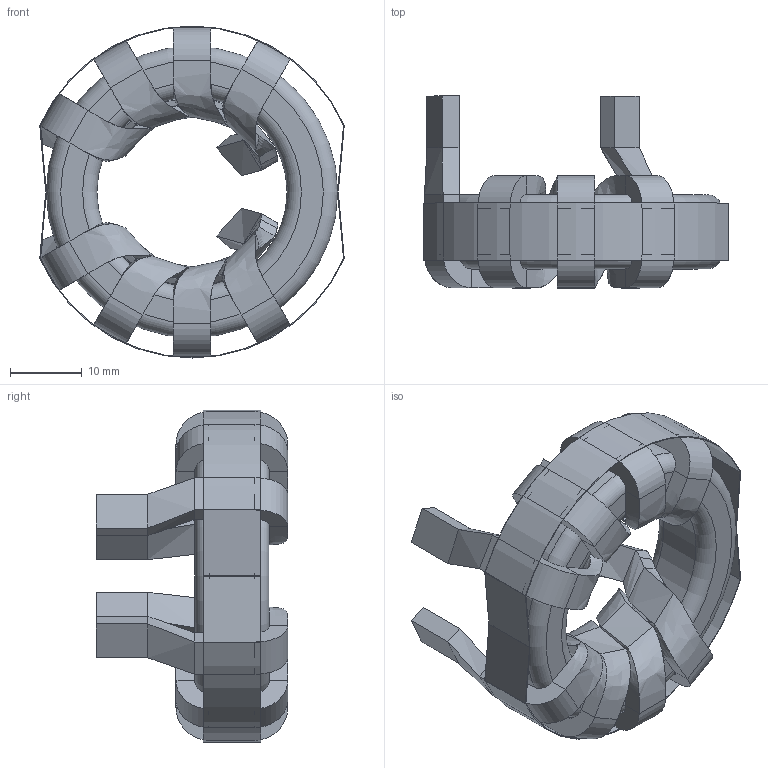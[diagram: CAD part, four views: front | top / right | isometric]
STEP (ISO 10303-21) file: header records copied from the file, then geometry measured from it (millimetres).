
FILE_DESCRIPTION (( 'STEP AP203' ), '1' );
FILE_NAME ('C-36A29-09.STEP', '2021-01-11T09:54:10', ( 'Windows User' ), ( '' ), 'SwSTEP 2.0', 'SolidWorks 2015', '' );
FILE_SCHEMA (( 'CONFIG_CONTROL_DESIGN' ));
Length unit declared in the file: inch
Products named in the file (3): C-36A29-09 - COIL; C-36A29-09; C-36A29-09 - CORE
Assembly tree (2 placements, depth 2):
  C-36A29-09
    C-36A29-09 - CORE
    C-36A29-09 - COIL
Bounding box: 42.43 x 26.71 x 46.27 mm (x, y, z)
Volume: 11904.8 mm3; surface area: 11350 mm2
Topology: 8 solids, 8 shells, 234 faces, 528 edges, 310 vertices
Faces by surface type: bspline 116, plane 72, cylinder 38, torus 8
Entity records: 11439 total; most frequent: CARTESIAN_POINT 6605, ORIENTED_EDGE 1056, DIRECTION 686, EDGE_CURVE 528, VERTEX_POINT 310, VECTOR 256, LINE 256, EDGE_LOOP 238
